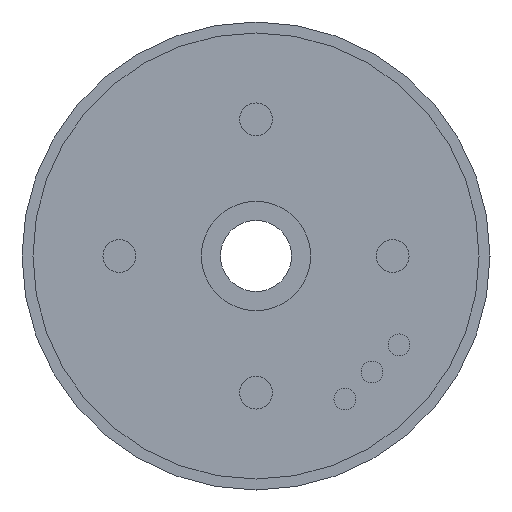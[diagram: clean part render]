
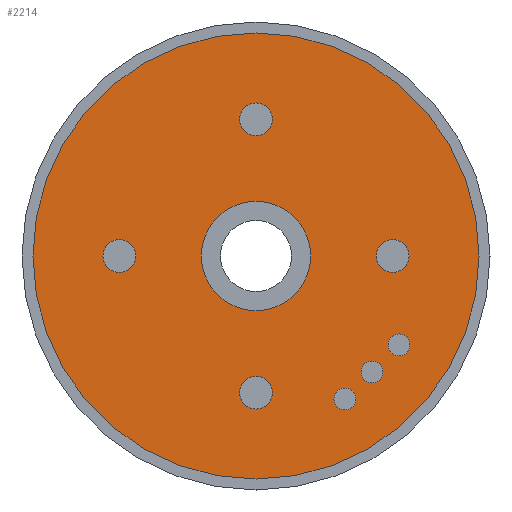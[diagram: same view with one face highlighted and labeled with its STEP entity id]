
A CAD part, left-side view. The second image highlights one B-rep face of the part: STEP entity #2214.
In plain terms, the highlighted planar face has unit normal (-1, 0, 0).
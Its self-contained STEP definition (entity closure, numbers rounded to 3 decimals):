
#599=CARTESIAN_POINT('',(-25.3,0.,0.));
#600=DIRECTION('',(-1.,0.,0.));
#601=DIRECTION('',(0.,0.,-1.));
#602=AXIS2_PLACEMENT_3D('',#599,#600,#601);
#604=CARTESIAN_POINT('',(-25.3,0.,0.));
#605=DIRECTION('',(1.,0.,0.));
#606=DIRECTION('',(0.,0.,-1.));
#607=AXIS2_PLACEMENT_3D('',#604,#605,#606);
#609=CARTESIAN_POINT('',(-25.3,0.,0.));
#610=DIRECTION('',(-1.,0.,0.));
#611=DIRECTION('',(0.,-1.,0.));
#612=AXIS2_PLACEMENT_3D('',#609,#610,#611);
#614=CARTESIAN_POINT('',(-25.3,0.,0.));
#615=DIRECTION('',(-1.,0.,0.));
#616=DIRECTION('',(0.,1.,0.));
#617=AXIS2_PLACEMENT_3D('',#614,#615,#616);
#619=CARTESIAN_POINT('',(-25.3,0.,12.5));
#620=DIRECTION('',(-1.,0.,0.));
#621=DIRECTION('',(0.,-1.,0.));
#622=AXIS2_PLACEMENT_3D('',#619,#620,#621);
#624=CARTESIAN_POINT('',(-25.3,0.,12.5));
#625=DIRECTION('',(-1.,0.,0.));
#626=DIRECTION('',(0.,1.,0.));
#627=AXIS2_PLACEMENT_3D('',#624,#625,#626);
#629=CARTESIAN_POINT('',(-25.3,-12.5,0.));
#630=DIRECTION('',(-1.,0.,0.));
#631=DIRECTION('',(0.,0.,-1.));
#632=AXIS2_PLACEMENT_3D('',#629,#630,#631);
#634=CARTESIAN_POINT('',(-25.3,-12.5,0.));
#635=DIRECTION('',(-1.,0.,0.));
#636=DIRECTION('',(0.,0.,1.));
#637=AXIS2_PLACEMENT_3D('',#634,#635,#636);
#639=CARTESIAN_POINT('',(-25.3,0.,-12.5));
#640=DIRECTION('',(-1.,0.,0.));
#641=DIRECTION('',(0.,1.,0.));
#642=AXIS2_PLACEMENT_3D('',#639,#640,#641);
#644=CARTESIAN_POINT('',(-25.3,0.,-12.5));
#645=DIRECTION('',(-1.,0.,0.));
#646=DIRECTION('',(0.,-1.,0.));
#647=AXIS2_PLACEMENT_3D('',#644,#645,#646);
#649=CARTESIAN_POINT('',(-25.3,12.5,0.));
#650=DIRECTION('',(-1.,0.,0.));
#651=DIRECTION('',(0.,0.,1.));
#652=AXIS2_PLACEMENT_3D('',#649,#650,#651);
#654=CARTESIAN_POINT('',(-25.3,12.5,0.));
#655=DIRECTION('',(-1.,0.,0.));
#656=DIRECTION('',(0.,0.,-1.));
#657=AXIS2_PLACEMENT_3D('',#654,#655,#656);
#659=CARTESIAN_POINT('',(-25.3,-10.607,-10.607));
#660=DIRECTION('',(-1.,0.,0.));
#661=DIRECTION('',(0.,0.,-1.));
#662=AXIS2_PLACEMENT_3D('',#659,#660,#661);
#664=CARTESIAN_POINT('',(-25.3,-10.607,-10.607));
#665=DIRECTION('',(-1.,0.,0.));
#666=DIRECTION('',(0.,0.,1.));
#667=AXIS2_PLACEMENT_3D('',#664,#665,#666);
#669=CARTESIAN_POINT('',(-25.3,-13.081,-8.132));
#670=DIRECTION('',(-1.,0.,0.));
#671=DIRECTION('',(0.,0.,-1.));
#672=AXIS2_PLACEMENT_3D('',#669,#670,#671);
#674=CARTESIAN_POINT('',(-25.3,-13.081,-8.132));
#675=DIRECTION('',(-1.,0.,0.));
#676=DIRECTION('',(0.,0.,1.));
#677=AXIS2_PLACEMENT_3D('',#674,#675,#676);
#679=CARTESIAN_POINT('',(-25.3,-8.132,-13.081));
#680=DIRECTION('',(-1.,0.,0.));
#681=DIRECTION('',(0.,0.,-1.));
#682=AXIS2_PLACEMENT_3D('',#679,#680,#681);
#684=CARTESIAN_POINT('',(-25.3,-8.132,-13.081));
#685=DIRECTION('',(-1.,0.,0.));
#686=DIRECTION('',(0.,0.,1.));
#687=AXIS2_PLACEMENT_3D('',#684,#685,#686);
#1054=CARTESIAN_POINT('',(-25.3,0.,-20.4));
#1056=VERTEX_POINT('',#1054);
#1132=CARTESIAN_POINT('',(-25.3,0.,20.4));
#1134=VERTEX_POINT('',#1132);
#1191=CARTESIAN_POINT('',(-25.3,-5.,0.));
#1192=CARTESIAN_POINT('',(-25.3,5.,0.));
#1193=VERTEX_POINT('',#1191);
#1194=VERTEX_POINT('',#1192);
#1203=CARTESIAN_POINT('',(-25.3,-1.5,12.5));
#1204=CARTESIAN_POINT('',(-25.3,1.5,12.5));
#1205=VERTEX_POINT('',#1203);
#1206=VERTEX_POINT('',#1204);
#1211=CARTESIAN_POINT('',(-25.3,-12.5,-1.5));
#1212=CARTESIAN_POINT('',(-25.3,-12.5,1.5));
#1213=VERTEX_POINT('',#1211);
#1214=VERTEX_POINT('',#1212);
#1219=CARTESIAN_POINT('',(-25.3,1.5,-12.5));
#1220=CARTESIAN_POINT('',(-25.3,-1.5,-12.5));
#1221=VERTEX_POINT('',#1219);
#1222=VERTEX_POINT('',#1220);
#1227=CARTESIAN_POINT('',(-25.3,12.5,1.5));
#1228=CARTESIAN_POINT('',(-25.3,12.5,-1.5));
#1229=VERTEX_POINT('',#1227);
#1230=VERTEX_POINT('',#1228);
#1243=CARTESIAN_POINT('',(-25.3,-10.607,-11.607));
#1244=CARTESIAN_POINT('',(-25.3,-10.607,-9.607));
#1245=VERTEX_POINT('',#1243);
#1246=VERTEX_POINT('',#1244);
#1247=CARTESIAN_POINT('',(-25.3,-13.081,-9.132));
#1248=CARTESIAN_POINT('',(-25.3,-13.081,-7.132));
#1249=VERTEX_POINT('',#1247);
#1250=VERTEX_POINT('',#1248);
#1251=CARTESIAN_POINT('',(-25.3,-8.132,-14.081));
#1252=CARTESIAN_POINT('',(-25.3,-8.132,-12.081));
#1253=VERTEX_POINT('',#1251);
#1254=VERTEX_POINT('',#1252);
#2157=CARTESIAN_POINT('',(-25.3,0.,0.));
#2158=DIRECTION('',(1.,0.,0.));
#2159=DIRECTION('',(0.,0.,1.));
#2160=AXIS2_PLACEMENT_3D('',#2157,#2158,#2159);
#2161=PLANE('',#2160);
#2162=ORIENTED_EDGE('',*,*,#2136,.F.);
#2163=ORIENTED_EDGE('',*,*,#2152,.T.);
#2164=EDGE_LOOP('',(#2162,#2163));
#2165=FACE_OUTER_BOUND('',#2164,.F.);
#2167=ORIENTED_EDGE('',*,*,#2166,.T.);
#2169=ORIENTED_EDGE('',*,*,#2168,.T.);
#2170=EDGE_LOOP('',(#2167,#2169));
#2171=FACE_BOUND('',#2170,.F.);
#2173=ORIENTED_EDGE('',*,*,#2172,.T.);
#2175=ORIENTED_EDGE('',*,*,#2174,.T.);
#2176=EDGE_LOOP('',(#2173,#2175));
#2177=FACE_BOUND('',#2176,.F.);
#2179=ORIENTED_EDGE('',*,*,#2178,.T.);
#2181=ORIENTED_EDGE('',*,*,#2180,.T.);
#2182=EDGE_LOOP('',(#2179,#2181));
#2183=FACE_BOUND('',#2182,.F.);
#2185=ORIENTED_EDGE('',*,*,#2184,.T.);
#2187=ORIENTED_EDGE('',*,*,#2186,.T.);
#2188=EDGE_LOOP('',(#2185,#2187));
#2189=FACE_BOUND('',#2188,.F.);
#2191=ORIENTED_EDGE('',*,*,#2190,.T.);
#2193=ORIENTED_EDGE('',*,*,#2192,.T.);
#2194=EDGE_LOOP('',(#2191,#2193));
#2195=FACE_BOUND('',#2194,.F.);
#2197=ORIENTED_EDGE('',*,*,#2196,.T.);
#2199=ORIENTED_EDGE('',*,*,#2198,.T.);
#2200=EDGE_LOOP('',(#2197,#2199));
#2201=FACE_BOUND('',#2200,.F.);
#2203=ORIENTED_EDGE('',*,*,#2202,.T.);
#2205=ORIENTED_EDGE('',*,*,#2204,.T.);
#2206=EDGE_LOOP('',(#2203,#2205));
#2207=FACE_BOUND('',#2206,.F.);
#2209=ORIENTED_EDGE('',*,*,#2208,.T.);
#2211=ORIENTED_EDGE('',*,*,#2210,.T.);
#2212=EDGE_LOOP('',(#2209,#2211));
#2213=FACE_BOUND('',#2212,.F.);
#603=CIRCLE('',#602,20.4);
#608=CIRCLE('',#607,20.4);
#613=CIRCLE('',#612,5.);
#618=CIRCLE('',#617,5.);
#623=CIRCLE('',#622,1.5);
#628=CIRCLE('',#627,1.5);
#633=CIRCLE('',#632,1.5);
#638=CIRCLE('',#637,1.5);
#643=CIRCLE('',#642,1.5);
#648=CIRCLE('',#647,1.5);
#653=CIRCLE('',#652,1.5);
#658=CIRCLE('',#657,1.5);
#663=CIRCLE('',#662,1.);
#668=CIRCLE('',#667,1.);
#673=CIRCLE('',#672,1.);
#678=CIRCLE('',#677,1.);
#683=CIRCLE('',#682,1.);
#688=CIRCLE('',#687,1.);
#2136=EDGE_CURVE('',#1056,#1134,#603,.T.);
#2152=EDGE_CURVE('',#1056,#1134,#608,.T.);
#2166=EDGE_CURVE('',#1193,#1194,#613,.T.);
#2168=EDGE_CURVE('',#1194,#1193,#618,.T.);
#2172=EDGE_CURVE('',#1205,#1206,#623,.T.);
#2174=EDGE_CURVE('',#1206,#1205,#628,.T.);
#2178=EDGE_CURVE('',#1213,#1214,#633,.T.);
#2180=EDGE_CURVE('',#1214,#1213,#638,.T.);
#2184=EDGE_CURVE('',#1221,#1222,#643,.T.);
#2186=EDGE_CURVE('',#1222,#1221,#648,.T.);
#2190=EDGE_CURVE('',#1229,#1230,#653,.T.);
#2192=EDGE_CURVE('',#1230,#1229,#658,.T.);
#2196=EDGE_CURVE('',#1245,#1246,#663,.T.);
#2198=EDGE_CURVE('',#1246,#1245,#668,.T.);
#2202=EDGE_CURVE('',#1249,#1250,#673,.T.);
#2204=EDGE_CURVE('',#1250,#1249,#678,.T.);
#2208=EDGE_CURVE('',#1253,#1254,#683,.T.);
#2210=EDGE_CURVE('',#1254,#1253,#688,.T.);
#2214=ADVANCED_FACE('',(#2165,#2171,#2177,#2183,#2189,#2195,#2201,#2207,#2213),
#2161,.F.);
